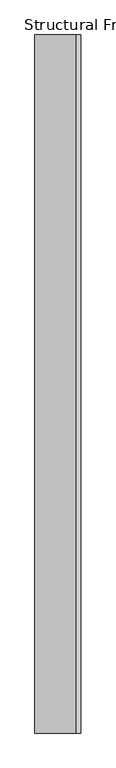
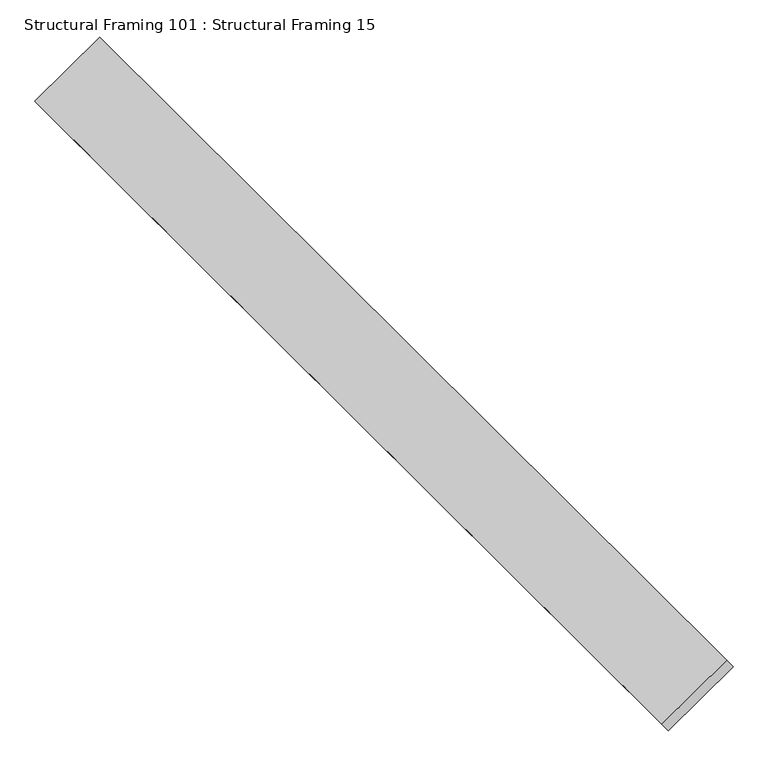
"""IFC4 building model written with IfcOpenShell, lengths in millimetres: beam geometry, Structural Framing 101 : Structural Framing 15."""

from ifc_helpers import new_model, si_unit, frame, origin, place, context, project, spatial, polyline, outline, extrude, source, transform, mapped, element, save


def structural_framing_101_structural_framing_15_d9cf2b80(model_context):
    return source(origin(), model_context, "Body", "SweptSolid", [
        extrude(outline(polyline([(0.0, -174.3446796), (0.0, 0.0), (2400.0, 0.0), (2400.0, -174.3446796), (0.0, -174.3446796)])), frame((1206.7789073, 3995.5508021, 2800.0), z_axis=(-0.5735764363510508, 0.0, 0.8191520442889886), x_axis=(0.0, -1.0, 0.0)), (0.0, 0.0, 1.0), 25.0),
    ])


if __name__ == "__main__":
    model = new_model("IFC4")
    model_context = context("Model", 3, world=origin())
    ifc_project = project(units=[si_unit("LENGTHUNIT", "METRE", prefix="MILLI")], contexts=[model_context])
    site = spatial("IfcSite", under=ifc_project)
    building = spatial("IfcBuilding", under=site)
    placement = place(None, origin())
    structural_framing_101_structural_framing_15_shape = structural_framing_101_structural_framing_15_d9cf2b80(model_context)
    element("IfcBeam", 1, ObjectType="Structural Framing 101 : Structural Framing 15", at=placement, inside=building, context=model_context, shape_type="MappedRepresentation", body=[
        mapped(structural_framing_101_structural_framing_15_shape, transform((0.0, 0.0, 0.0), x_axis=(1.0, 0.0, 0.0), y_axis=(0.0, 1.0, 0.0), z_axis=(0.0, 0.0, 1.0))),
    ])
    save(model, "model.ifc")
